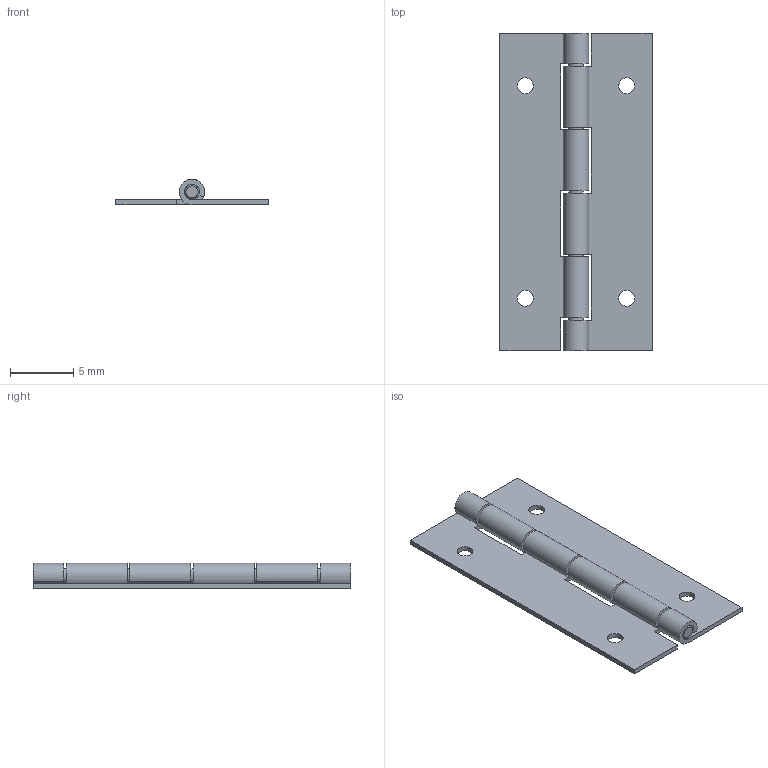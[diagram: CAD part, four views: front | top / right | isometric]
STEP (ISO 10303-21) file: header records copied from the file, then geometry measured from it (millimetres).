
FILE_DESCRIPTION(/* description */ ('Unknown'),/* implementation_level */ '2;1');
FILE_NAME(/* name */ '6218.03.02',/* time_stamp */ '2023-10-10T13:15:20+02:00',/* author */ ('Unknown'),/* organization */ ('Unknown'),/* preprocessor_version */ 'ST-DEVELOPER v16.7',/* originating_system */ 'DEX',/* authorisation */ $);
FILE_SCHEMA (('AUTOMOTIVE_DESIGN {1 0 10303 214 3 1 1}'));
Length unit declared in the file: millimetre
Products named in the file (3): 6218.03.02; Stift 25 mm
Assembly tree (3 placements, depth 2):
  6218.03.02
    6218.03.02  x2
    Stift 25 mm
Bounding box: 12 x 25 x 2 mm (x, y, z)
Volume: 170.8 mm3; surface area: 895.9 mm2
Topology: 3 solids, 3 shells, 53 faces, 143 edges, 96 vertices
Faces by surface type: plane 34, cylinder 17, cone 2
Full cylindrical faces by diameter (mm): 1.15 x1, 1.25 x4
Entity records: 938 total; most frequent: DIRECTION 154, CARTESIAN_POINT 149, ORIENTED_EDGE 136, EDGE_CURVE 68, AXIS2_PLACEMENT_3D 53, LINE 48, VECTOR 48, VERTEX_POINT 48
